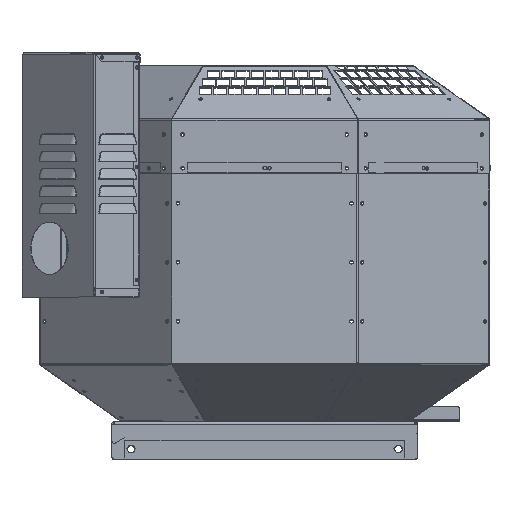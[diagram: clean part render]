
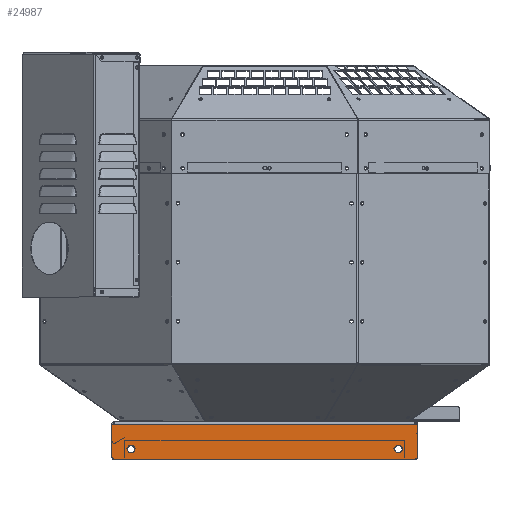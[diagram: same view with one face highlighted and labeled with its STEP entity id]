
A CAD part, top view. The second image highlights one B-rep face of the part: STEP entity #24987.
In plain terms, the highlighted planar face has unit normal (0, 0, 1).
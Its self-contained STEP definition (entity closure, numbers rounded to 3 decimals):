
#712 = AXIS2_PLACEMENT_3D ( 'NONE', #53447, #12566, #60271 ) ;
#721 = ORIENTED_EDGE ( 'NONE', *, *, #7382, .F. ) ;
#883 = CARTESIAN_POINT ( 'NONE',  ( 158.5, -37.232, 170.3 ) ) ;
#1769 = CARTESIAN_POINT ( 'NONE',  ( -181.525, -41.682, 170.3 ) ) ;
#1852 = CIRCLE ( 'NONE', #8632, 4.5 ) ;
#2985 = CARTESIAN_POINT ( 'NONE',  ( -181.525, -3.632, 170.3 ) ) ;
#4196 = CARTESIAN_POINT ( 'NONE',  ( -181.525, -3.632, 170.3 ) ) ;
#4511 = CARTESIAN_POINT ( 'NONE',  ( -169.025, -1.732, 170.3 ) ) ;
#5413 = FACE_BOUND ( 'NONE', #9051, .T. ) ;
#6391 = CARTESIAN_POINT ( 'NONE',  ( -158.5, -32.732, 170.3 ) ) ;
#7382 = EDGE_CURVE ( 'NONE', #42384, #34116, #62498, .T. ) ;
#8131 = AXIS2_PLACEMENT_3D ( 'NONE', #68835, #28013, #75696 ) ;
#8190 = VECTOR ( 'NONE', #35701, 1000. ) ;
#8632 = AXIS2_PLACEMENT_3D ( 'NONE', #6391, #54091, #13230 ) ;
#9051 = EDGE_LOOP ( 'NONE', ( #54438, #71299 ) ) ;
#11154 = VERTEX_POINT ( 'NONE', #1769 ) ;
#11512 = CIRCLE ( 'NONE', #8131, 4.5 ) ;
#11974 = ORIENTED_EDGE ( 'NONE', *, *, #15837, .T. ) ;
#12191 = CARTESIAN_POINT ( 'NONE',  ( 169.025, -3.632, 170.3 ) ) ;
#12566 = DIRECTION ( 'NONE',  ( 0., 0., 1. ) ) ;
#13230 = DIRECTION ( 'NONE',  ( 0., -1., 0. ) ) ;
#13469 = VECTOR ( 'NONE', #71221, 1000. ) ;
#15837 = EDGE_CURVE ( 'NONE', #52375, #57811, #76498, .T. ) ;
#16171 = VERTEX_POINT ( 'NONE', #883 ) ;
#16684 = ORIENTED_EDGE ( 'NONE', *, *, #33748, .T. ) ;
#17228 = VERTEX_POINT ( 'NONE', #50263 ) ;
#17572 = CARTESIAN_POINT ( 'NONE',  ( -178.125, -3.632, 170.3 ) ) ;
#17710 = CARTESIAN_POINT ( 'NONE',  ( 181.525, -41.682, 170.3 ) ) ;
#19080 = CARTESIAN_POINT ( 'NONE',  ( 181.525, -3.632, 170.3 ) ) ;
#19996 = LINE ( 'NONE', #61520, #70059 ) ;
#20104 = CIRCLE ( 'NONE', #82785, 4.5 ) ;
#20710 = DIRECTION ( 'NONE',  ( -1., 0., 0. ) ) ;
#21001 = ORIENTED_EDGE ( 'NONE', *, *, #31626, .F. ) ;
#21136 = ORIENTED_EDGE ( 'NONE', *, *, #39765, .F. ) ;
#21351 = FACE_OUTER_BOUND ( 'NONE', #29977, .T. ) ;
#22194 = ORIENTED_EDGE ( 'NONE', *, *, #72131, .T. ) ;
#22302 = EDGE_CURVE ( 'NONE', #59583, #65885, #28156, .T. ) ;
#22573 = ORIENTED_EDGE ( 'NONE', *, *, #22302, .T. ) ;
#24636 = CARTESIAN_POINT ( 'NONE',  ( -158.5, -37.232, 170.3 ) ) ;
#24987 = ADVANCED_FACE ( 'NONE', ( #5413, #41656, #21351 ), #79284, .T. ) ;
#26531 = DIRECTION ( 'NONE',  ( 0., -1., 0. ) ) ;
#28013 = DIRECTION ( 'NONE',  ( 0., 0., 1. ) ) ;
#28156 = LINE ( 'NONE', #39256, #44233 ) ;
#28691 = EDGE_LOOP ( 'NONE', ( #84468, #21136 ) ) ;
#28823 = CARTESIAN_POINT ( 'NONE',  ( -169.025, -3.632, 170.3 ) ) ;
#29977 = EDGE_LOOP ( 'NONE', ( #21001, #11974, #58683, #721, #22194, #22573, #85560, #16684 ) ) ;
#31373 = VERTEX_POINT ( 'NONE', #24636 ) ;
#31577 = DIRECTION ( 'NONE',  ( 0., -1., 0. ) ) ;
#31626 = EDGE_CURVE ( 'NONE', #52375, #84932, #19996, .T. ) ;
#33748 = EDGE_CURVE ( 'NONE', #11154, #84932, #62406, .T. ) ;
#33935 = DIRECTION ( 'NONE',  ( 1., 0., 0. ) ) ;
#34116 = VERTEX_POINT ( 'NONE', #19080 ) ;
#35701 = DIRECTION ( 'NONE',  ( -1., 0., 0. ) ) ;
#38206 = CARTESIAN_POINT ( 'NONE',  ( 178.525, -44.682, 170.3 ) ) ;
#39256 = CARTESIAN_POINT ( 'NONE',  ( -169.025, -3.632, 170.3 ) ) ;
#39765 = EDGE_CURVE ( 'NONE', #84025, #31373, #20104, .T. ) ;
#40442 = LINE ( 'NONE', #60513, #75707 ) ;
#41514 = DIRECTION ( 'NONE',  ( -1., 0., 0. ) ) ;
#41656 = FACE_BOUND ( 'NONE', #28691, .T. ) ;
#42384 = VERTEX_POINT ( 'NONE', #47375 ) ;
#42453 = AXIS2_PLACEMENT_3D ( 'NONE', #73717, #73396, #46345 ) ;
#44233 = VECTOR ( 'NONE', #41514, 1000. ) ;
#44764 = EDGE_CURVE ( 'NONE', #17228, #16171, #11512, .T. ) ;
#44793 = DIRECTION ( 'NONE',  ( 0., 0., 1. ) ) ;
#45664 = DIRECTION ( 'NONE',  ( 0., 0., 1. ) ) ;
#46345 = DIRECTION ( 'NONE',  ( 0., -1., 0. ) ) ;
#46537 = CARTESIAN_POINT ( 'NONE',  ( -158.5, -28.232, 170.3 ) ) ;
#47375 = CARTESIAN_POINT ( 'NONE',  ( 178.125, -3.632, 170.3 ) ) ;
#50263 = CARTESIAN_POINT ( 'NONE',  ( 158.5, -28.232, 170.3 ) ) ;
#51903 = LINE ( 'NONE', #2985, #13469 ) ;
#52375 = VERTEX_POINT ( 'NONE', #38206 ) ;
#52515 = AXIS2_PLACEMENT_3D ( 'NONE', #4511, #72431, #31577 ) ;
#53447 = CARTESIAN_POINT ( 'NONE',  ( 158.5, -32.732, 170.3 ) ) ;
#54091 = DIRECTION ( 'NONE',  ( 0., 0., 1. ) ) ;
#54438 = ORIENTED_EDGE ( 'NONE', *, *, #86581, .F. ) ;
#57811 = VERTEX_POINT ( 'NONE', #17710 ) ;
#57935 = EDGE_CURVE ( 'NONE', #31373, #84025, #1852, .T. ) ;
#58683 = ORIENTED_EDGE ( 'NONE', *, *, #70791, .F. ) ;
#59583 = VERTEX_POINT ( 'NONE', #17572 ) ;
#60271 = DIRECTION ( 'NONE',  ( 0., -1., 0. ) ) ;
#60395 = VECTOR ( 'NONE', #33935, 1000. ) ;
#60513 = CARTESIAN_POINT ( 'NONE',  ( 181.525, -3.632, 170.3 ) ) ;
#61169 = CIRCLE ( 'NONE', #712, 4.5 ) ;
#61520 = CARTESIAN_POINT ( 'NONE',  ( -169.025, -44.682, 170.3 ) ) ;
#62406 = CIRCLE ( 'NONE', #73340, 3. ) ;
#62498 = LINE ( 'NONE', #12191, #60395 ) ;
#62546 = LINE ( 'NONE', #28823, #8190 ) ;
#65885 = VERTEX_POINT ( 'NONE', #4196 ) ;
#68835 = CARTESIAN_POINT ( 'NONE',  ( 158.5, -32.732, 170.3 ) ) ;
#70059 = VECTOR ( 'NONE', #20710, 1000. ) ;
#70791 = EDGE_CURVE ( 'NONE', #34116, #57811, #40442, .T. ) ;
#71221 = DIRECTION ( 'NONE',  ( 0., -1., 0. ) ) ;
#71299 = ORIENTED_EDGE ( 'NONE', *, *, #44764, .F. ) ;
#72131 = EDGE_CURVE ( 'NONE', #42384, #59583, #62546, .T. ) ;
#72431 = DIRECTION ( 'NONE',  ( 0., 0., 1. ) ) ;
#72549 = DIRECTION ( 'NONE',  ( 0., -1., 0. ) ) ;
#72730 = DIRECTION ( 'NONE',  ( 0., -1., 0. ) ) ;
#73340 = AXIS2_PLACEMENT_3D ( 'NONE', #73563, #44793, #72549 ) ;
#73396 = DIRECTION ( 'NONE',  ( 0., 0., 1. ) ) ;
#73563 = CARTESIAN_POINT ( 'NONE',  ( -178.525, -41.682, 170.3 ) ) ;
#73717 = CARTESIAN_POINT ( 'NONE',  ( 178.525, -41.682, 170.3 ) ) ;
#75696 = DIRECTION ( 'NONE',  ( 0., -1., 0. ) ) ;
#75707 = VECTOR ( 'NONE', #26531, 1000. ) ;
#76498 = CIRCLE ( 'NONE', #42453, 3. ) ;
#79203 = CARTESIAN_POINT ( 'NONE',  ( -178.525, -44.682, 170.3 ) ) ;
#79284 = PLANE ( 'NONE',  #52515 ) ;
#82785 = AXIS2_PLACEMENT_3D ( 'NONE', #86531, #45664, #72730 ) ;
#83766 = EDGE_CURVE ( 'NONE', #65885, #11154, #51903, .T. ) ;
#84025 = VERTEX_POINT ( 'NONE', #46537 ) ;
#84468 = ORIENTED_EDGE ( 'NONE', *, *, #57935, .F. ) ;
#84932 = VERTEX_POINT ( 'NONE', #79203 ) ;
#85560 = ORIENTED_EDGE ( 'NONE', *, *, #83766, .T. ) ;
#86531 = CARTESIAN_POINT ( 'NONE',  ( -158.5, -32.732, 170.3 ) ) ;
#86581 = EDGE_CURVE ( 'NONE', #16171, #17228, #61169, .T. ) ;
